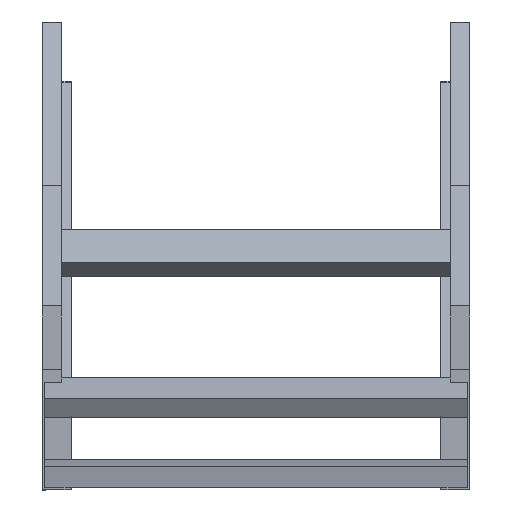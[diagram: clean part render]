
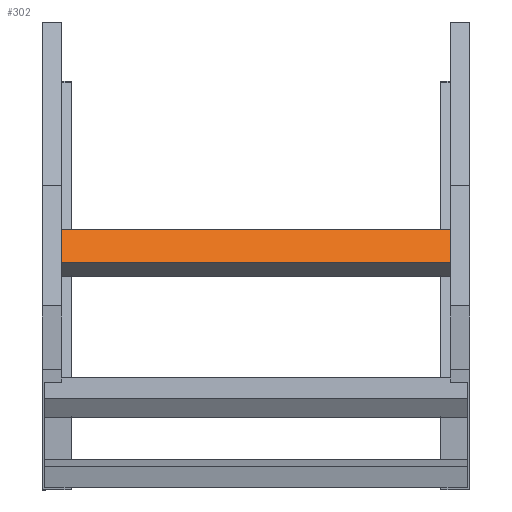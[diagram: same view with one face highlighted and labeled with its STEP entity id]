
A CAD part, top view. The second image highlights one B-rep face of the part: STEP entity #302.
In plain terms, the highlighted planar face has unit normal (0, 0.643, 0.766) as drawn and (0, 1, 0) by its records, which use the part's own axes.
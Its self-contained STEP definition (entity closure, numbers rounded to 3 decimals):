
#16 = CARTESIAN_POINT ( 'NONE',  ( -198., 20., 20.25 ) ) ;
#86 = FACE_OUTER_BOUND ( 'NONE', #591, .T. ) ;
#90 = DIRECTION ( 'NONE',  ( 0., 0., 1. ) ) ;
#114 = VECTOR ( 'NONE', #211, 1000. ) ;
#211 = DIRECTION ( 'NONE',  ( -1., 0., 0. ) ) ;
#258 = EDGE_CURVE ( 'NONE', #793, #720, #601, .T. ) ;
#302 = ADVANCED_FACE ( 'NONE', ( #86 ), #1148, .F. ) ;
#342 = CARTESIAN_POINT ( 'NONE',  ( 198., 20., -20.25 ) ) ;
#356 = EDGE_CURVE ( 'NONE', #935, #720, #1198, .T. ) ;
#368 = CARTESIAN_POINT ( 'NONE',  ( 198., 20., -20.25 ) ) ;
#515 = DIRECTION ( 'NONE',  ( 0., 0., -1. ) ) ;
#548 = EDGE_CURVE ( 'NONE', #1417, #935, #1299, .T. ) ;
#561 = VECTOR ( 'NONE', #1190, 1000. ) ;
#591 = EDGE_LOOP ( 'NONE', ( #1033, #1235, #1259, #1637 ) ) ;
#601 = LINE ( 'NONE', #757, #114 ) ;
#634 = CARTESIAN_POINT ( 'NONE',  ( 198., 20., 20.25 ) ) ;
#720 = VERTEX_POINT ( 'NONE', #1186 ) ;
#729 = VECTOR ( 'NONE', #732, 1000. ) ;
#732 = DIRECTION ( 'NONE',  ( -1., 0., 0. ) ) ;
#757 = CARTESIAN_POINT ( 'NONE',  ( 198., 20., 20.25 ) ) ;
#783 = CARTESIAN_POINT ( 'NONE',  ( 198., 20., 20.25 ) ) ;
#793 = VERTEX_POINT ( 'NONE', #1239 ) ;
#868 = AXIS2_PLACEMENT_3D ( 'NONE', #783, #1433, #515 ) ;
#892 = CARTESIAN_POINT ( 'NONE',  ( -198., 20., -20.25 ) ) ;
#935 = VERTEX_POINT ( 'NONE', #892 ) ;
#1033 = ORIENTED_EDGE ( 'NONE', *, *, #356, .T. ) ;
#1043 = EDGE_CURVE ( 'NONE', #1417, #793, #1656, .T. ) ;
#1148 = PLANE ( 'NONE',  #868 ) ;
#1186 = CARTESIAN_POINT ( 'NONE',  ( -198., 20., 20.25 ) ) ;
#1190 = DIRECTION ( 'NONE',  ( 0., 0., 1. ) ) ;
#1198 = LINE ( 'NONE', #16, #561 ) ;
#1235 = ORIENTED_EDGE ( 'NONE', *, *, #258, .F. ) ;
#1239 = CARTESIAN_POINT ( 'NONE',  ( 198., 20., 20.25 ) ) ;
#1259 = ORIENTED_EDGE ( 'NONE', *, *, #1043, .F. ) ;
#1299 = LINE ( 'NONE', #342, #729 ) ;
#1417 = VERTEX_POINT ( 'NONE', #368 ) ;
#1433 = DIRECTION ( 'NONE',  ( 0., -1., 0. ) ) ;
#1637 = ORIENTED_EDGE ( 'NONE', *, *, #548, .T. ) ;
#1656 = LINE ( 'NONE', #634, #1658 ) ;
#1658 = VECTOR ( 'NONE', #90, 1000. ) ;
